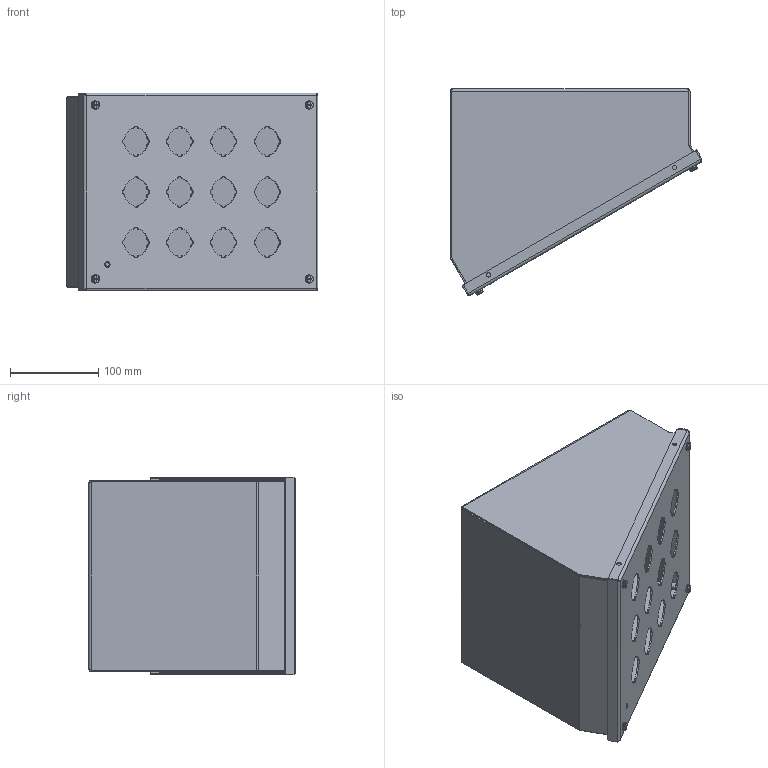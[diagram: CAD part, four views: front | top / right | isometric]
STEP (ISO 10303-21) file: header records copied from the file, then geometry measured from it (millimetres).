
FILE_DESCRIPTION((''),'2;1');
FILE_NAME('MODEL-043_ASM','2023-04-03T09:20:29',('joshi'),('SAGINAW CONTROL & ENGINEERING'),'CREO PARAMETRIC BY PTC INC, 2021284','CREO PARAMETRIC BY PTC INC, 2021284','');
FILE_SCHEMA(('AUTOMOTIVE_DESIGN { 1 0 10303 214 1 1 1 1 }'));
Length unit declared in the file: inch
Products named in the file (12): MODEL-043-BDY; MODEL-043-DR; 100063; 100983; 102534; MODEL-043-GSKT; 100009; CH-ELJ_SUBPANEL; 102479; CH-ELJ_SUBPANEL-SUBASSEMBLY_ASM; 120706; MODEL-043_ASM
Assembly tree (24 placements, depth 3):
  MODEL-043_ASM
    MODEL-043-BDY
    MODEL-043-DR
    100063
    100983  x4
    102534  x4
    MODEL-043-GSKT
    100009  x5
    CH-ELJ_SUBPANEL-SUBASSEMBLY_ASM
      CH-ELJ_SUBPANEL
      102479  x4
    120706
Bounding box: 285.07 x 233.96 x 223.84 mm (x, y, z)
Volume: 538384 mm3; surface area: 693528.6 mm2
Topology: 26 solids, 26 shells, 1225 faces, 3126 edges, 1832 vertices
Faces by surface type: cylinder 508, plane 381, bspline 188, torus 96, cone 44, sphere 8
Entity records: 33971 total; most frequent: CARTESIAN_POINT 8339, DIRECTION 3973, ORIENTED_EDGE 3692, EDGE_CURVE 1846, PRESENTATION_STYLE_ASSIGNMENT 1759, STYLED_ITEM 1759, CURVE_STYLE 1682, AXIS2_PLACEMENT_3D 1557
